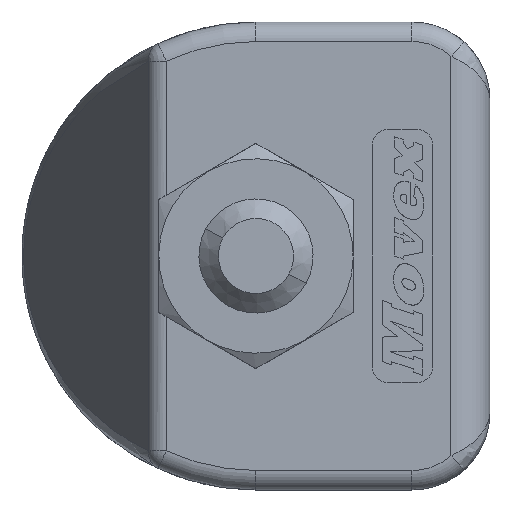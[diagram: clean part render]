
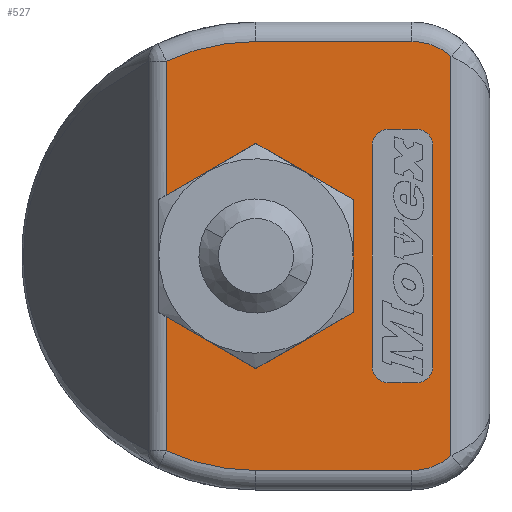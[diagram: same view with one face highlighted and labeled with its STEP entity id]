
A CAD part, left-side view. The second image highlights one B-rep face of the part: STEP entity #527.
In plain terms, the highlighted planar face has unit normal (-1, 0, 0) as drawn and (1, 0, 0) by its records, which use the part's own axes.
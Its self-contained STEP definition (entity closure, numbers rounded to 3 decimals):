
#291=CARTESIAN_POINT('Line Origine',(22.5,16.601,0.)) ;
#295=CARTESIAN_POINT('Vertex',(22.5,16.601,-9.991)) ;
#297=CARTESIAN_POINT('Vertex',(22.5,16.601,-3.117)) ;
#318=CARTESIAN_POINT('Vertex',(22.5,16.601,9.991)) ;
#321=CARTESIAN_POINT('Line Origine',(22.5,16.601,0.)) ;
#325=CARTESIAN_POINT('Vertex',(22.5,16.601,3.117)) ;
#360=CARTESIAN_POINT('Axis2P3D Location',(22.5,2.,0.)) ;
#365=CARTESIAN_POINT('Axis2P3D Location',(22.5,12.,0.)) ;
#369=CARTESIAN_POINT('Vertex',(22.5,12.,11.)) ;
#372=CARTESIAN_POINT('Line Origine',(22.5,8.,11.)) ;
#376=CARTESIAN_POINT('Vertex',(22.5,4.,11.)) ;
#379=CARTESIAN_POINT('Axis2P3D Location',(22.5,4.,8.)) ;
#383=CARTESIAN_POINT('Vertex',(22.5,2.,10.236)) ;
#386=CARTESIAN_POINT('Line Origine',(22.5,2.,0.)) ;
#390=CARTESIAN_POINT('Vertex',(22.5,2.,-10.236)) ;
#393=CARTESIAN_POINT('Axis2P3D Location',(22.5,4.,-8.)) ;
#397=CARTESIAN_POINT('Vertex',(22.5,4.,-11.)) ;
#400=CARTESIAN_POINT('Line Origine',(22.5,8.,-11.)) ;
#404=CARTESIAN_POINT('Vertex',(22.5,12.,-11.)) ;
#407=CARTESIAN_POINT('Axis2P3D Location',(22.5,12.,0.)) ;
#412=CARTESIAN_POINT('Line Origine',(22.5,14.301,-4.445)) ;
#416=CARTESIAN_POINT('Vertex',(22.5,12.,-5.774)) ;
#419=CARTESIAN_POINT('Line Origine',(22.5,9.5,-4.33)) ;
#423=CARTESIAN_POINT('Vertex',(22.5,7.,-2.887)) ;
#426=CARTESIAN_POINT('Line Origine',(22.5,7.,0.)) ;
#430=CARTESIAN_POINT('Vertex',(22.5,7.,2.887)) ;
#433=CARTESIAN_POINT('Line Origine',(22.5,9.5,4.33)) ;
#437=CARTESIAN_POINT('Vertex',(22.5,12.,5.774)) ;
#440=CARTESIAN_POINT('Line Origine',(22.5,14.301,4.445)) ;
#461=CARTESIAN_POINT('Axis2P3D Location',(22.5,5.192,-5.663)) ;
#465=CARTESIAN_POINT('Vertex',(22.5,5.192,-6.512)) ;
#467=CARTESIAN_POINT('Vertex',(22.5,6.041,-5.663)) ;
#470=CARTESIAN_POINT('Line Origine',(22.5,4.484,-6.512)) ;
#474=CARTESIAN_POINT('Vertex',(22.5,3.776,-6.512)) ;
#477=CARTESIAN_POINT('Axis2P3D Location',(22.5,3.776,-5.663)) ;
#481=CARTESIAN_POINT('Vertex',(22.5,2.927,-5.663)) ;
#484=CARTESIAN_POINT('Line Origine',(22.5,2.927,0.)) ;
#488=CARTESIAN_POINT('Vertex',(22.5,2.927,5.663)) ;
#491=CARTESIAN_POINT('Axis2P3D Location',(22.5,3.776,5.663)) ;
#495=CARTESIAN_POINT('Vertex',(22.5,3.776,6.512)) ;
#498=CARTESIAN_POINT('Line Origine',(22.5,4.484,6.512)) ;
#502=CARTESIAN_POINT('Vertex',(22.5,5.192,6.512)) ;
#505=CARTESIAN_POINT('Axis2P3D Location',(22.5,5.192,5.663)) ;
#509=CARTESIAN_POINT('Vertex',(22.5,6.041,5.663)) ;
#512=CARTESIAN_POINT('Line Origine',(22.5,6.041,0.)) ;
#292=DIRECTION('Vector Direction',(0.,0.,1.)) ;
#322=DIRECTION('Vector Direction',(0.,0.,1.)) ;
#361=DIRECTION('Axis2P3D Direction',(1.,0.,0.)) ;
#362=DIRECTION('Axis2P3D XDirection',(0.,1.,0.)) ;
#366=DIRECTION('Axis2P3D Direction',(1.,0.,0.)) ;
#373=DIRECTION('Vector Direction',(0.,1.,0.)) ;
#380=DIRECTION('Axis2P3D Direction',(1.,0.,0.)) ;
#387=DIRECTION('Vector Direction',(0.,0.,1.)) ;
#394=DIRECTION('Axis2P3D Direction',(1.,0.,0.)) ;
#401=DIRECTION('Vector Direction',(0.,1.,0.)) ;
#408=DIRECTION('Axis2P3D Direction',(1.,0.,0.)) ;
#413=DIRECTION('Vector Direction',(0.,0.866,0.5)) ;
#420=DIRECTION('Vector Direction',(0.,0.866,-0.5)) ;
#427=DIRECTION('Vector Direction',(0.,0.,-1.)) ;
#434=DIRECTION('Vector Direction',(0.,-0.866,-0.5)) ;
#441=DIRECTION('Vector Direction',(0.,-0.866,0.5)) ;
#462=DIRECTION('Axis2P3D Direction',(1.,0.,0.)) ;
#471=DIRECTION('Vector Direction',(0.,-1.,0.)) ;
#478=DIRECTION('Axis2P3D Direction',(1.,0.,0.)) ;
#485=DIRECTION('Vector Direction',(0.,0.,1.)) ;
#492=DIRECTION('Axis2P3D Direction',(1.,0.,0.)) ;
#499=DIRECTION('Vector Direction',(0.,1.,0.)) ;
#506=DIRECTION('Axis2P3D Direction',(1.,0.,0.)) ;
#513=DIRECTION('Vector Direction',(0.,0.,-1.)) ;
#363=AXIS2_PLACEMENT_3D('Plane Axis2P3D',#360,#361,#362) ;
#367=AXIS2_PLACEMENT_3D('Circle Axis2P3D',#365,#366,$) ;
#381=AXIS2_PLACEMENT_3D('Circle Axis2P3D',#379,#380,$) ;
#395=AXIS2_PLACEMENT_3D('Circle Axis2P3D',#393,#394,$) ;
#409=AXIS2_PLACEMENT_3D('Circle Axis2P3D',#407,#408,$) ;
#463=AXIS2_PLACEMENT_3D('Circle Axis2P3D',#461,#462,$) ;
#479=AXIS2_PLACEMENT_3D('Circle Axis2P3D',#477,#478,$) ;
#493=AXIS2_PLACEMENT_3D('Circle Axis2P3D',#491,#492,$) ;
#507=AXIS2_PLACEMENT_3D('Circle Axis2P3D',#505,#506,$) ;
#446=ORIENTED_EDGE('',*,*,#371,.F.) ;
#447=ORIENTED_EDGE('',*,*,#378,.F.) ;
#448=ORIENTED_EDGE('',*,*,#385,.F.) ;
#449=ORIENTED_EDGE('',*,*,#392,.F.) ;
#450=ORIENTED_EDGE('',*,*,#399,.T.) ;
#451=ORIENTED_EDGE('',*,*,#406,.T.) ;
#452=ORIENTED_EDGE('',*,*,#411,.T.) ;
#453=ORIENTED_EDGE('',*,*,#299,.T.) ;
#454=ORIENTED_EDGE('',*,*,#418,.F.) ;
#455=ORIENTED_EDGE('',*,*,#425,.F.) ;
#456=ORIENTED_EDGE('',*,*,#432,.F.) ;
#457=ORIENTED_EDGE('',*,*,#439,.F.) ;
#458=ORIENTED_EDGE('',*,*,#444,.F.) ;
#459=ORIENTED_EDGE('',*,*,#327,.T.) ;
#518=ORIENTED_EDGE('',*,*,#469,.F.) ;
#519=ORIENTED_EDGE('',*,*,#476,.F.) ;
#520=ORIENTED_EDGE('',*,*,#483,.F.) ;
#521=ORIENTED_EDGE('',*,*,#490,.F.) ;
#522=ORIENTED_EDGE('',*,*,#497,.F.) ;
#523=ORIENTED_EDGE('',*,*,#504,.F.) ;
#524=ORIENTED_EDGE('',*,*,#511,.F.) ;
#525=ORIENTED_EDGE('',*,*,#516,.F.) ;
#526=FACE_BOUND('',#517,.T.) ;
#293=VECTOR('Line Direction',#292,1.) ;
#323=VECTOR('Line Direction',#322,1.) ;
#374=VECTOR('Line Direction',#373,1.) ;
#388=VECTOR('Line Direction',#387,1.) ;
#402=VECTOR('Line Direction',#401,1.) ;
#414=VECTOR('Line Direction',#413,1.) ;
#421=VECTOR('Line Direction',#420,1.) ;
#428=VECTOR('Line Direction',#427,1.) ;
#435=VECTOR('Line Direction',#434,1.) ;
#442=VECTOR('Line Direction',#441,1.) ;
#472=VECTOR('Line Direction',#471,1.) ;
#486=VECTOR('Line Direction',#485,1.) ;
#500=VECTOR('Line Direction',#499,1.) ;
#514=VECTOR('Line Direction',#513,1.) ;
#527=ADVANCED_FACE('PartBody',(#460,#526),#364,.T.) ;
#368=CIRCLE('generated circle',#367,11.) ;
#382=CIRCLE('generated circle',#381,3.) ;
#396=CIRCLE('generated circle',#395,3.) ;
#410=CIRCLE('generated circle',#409,11.) ;
#464=CIRCLE('generated circle',#463,0.849) ;
#480=CIRCLE('generated circle',#479,0.849) ;
#494=CIRCLE('generated circle',#493,0.849) ;
#508=CIRCLE('generated circle',#507,0.849) ;
#299=EDGE_CURVE('',#296,#298,#294,.T.) ;
#327=EDGE_CURVE('',#326,#319,#324,.T.) ;
#371=EDGE_CURVE('',#370,#319,#368,.F.) ;
#378=EDGE_CURVE('',#377,#370,#375,.T.) ;
#385=EDGE_CURVE('',#384,#377,#382,.F.) ;
#392=EDGE_CURVE('',#391,#384,#389,.T.) ;
#399=EDGE_CURVE('',#391,#398,#396,.T.) ;
#406=EDGE_CURVE('',#398,#405,#403,.T.) ;
#411=EDGE_CURVE('',#405,#296,#410,.T.) ;
#418=EDGE_CURVE('',#417,#298,#415,.T.) ;
#425=EDGE_CURVE('',#424,#417,#422,.T.) ;
#432=EDGE_CURVE('',#431,#424,#429,.T.) ;
#439=EDGE_CURVE('',#438,#431,#436,.T.) ;
#444=EDGE_CURVE('',#326,#438,#443,.T.) ;
#469=EDGE_CURVE('',#466,#468,#464,.T.) ;
#476=EDGE_CURVE('',#475,#466,#473,.F.) ;
#483=EDGE_CURVE('',#482,#475,#480,.T.) ;
#490=EDGE_CURVE('',#489,#482,#487,.F.) ;
#497=EDGE_CURVE('',#496,#489,#494,.T.) ;
#504=EDGE_CURVE('',#503,#496,#501,.F.) ;
#511=EDGE_CURVE('',#510,#503,#508,.T.) ;
#516=EDGE_CURVE('',#468,#510,#515,.F.) ;
#445=EDGE_LOOP('',(#446,#447,#448,#449,#450,#451,#452,#453,#454,#455,#456,#457,#458,#459)) ;
#517=EDGE_LOOP('',(#518,#519,#520,#521,#522,#523,#524,#525)) ;
#460=FACE_OUTER_BOUND('',#445,.T.) ;
#294=LINE('Line',#291,#293) ;
#324=LINE('Line',#321,#323) ;
#375=LINE('Line',#372,#374) ;
#389=LINE('Line',#386,#388) ;
#403=LINE('Line',#400,#402) ;
#415=LINE('Line',#412,#414) ;
#422=LINE('Line',#419,#421) ;
#429=LINE('Line',#426,#428) ;
#436=LINE('Line',#433,#435) ;
#443=LINE('Line',#440,#442) ;
#473=LINE('Line',#470,#472) ;
#487=LINE('Line',#484,#486) ;
#501=LINE('Line',#498,#500) ;
#515=LINE('Line',#512,#514) ;
#364=PLANE('',#363) ;
#296=VERTEX_POINT('',#295) ;
#298=VERTEX_POINT('',#297) ;
#319=VERTEX_POINT('',#318) ;
#326=VERTEX_POINT('',#325) ;
#370=VERTEX_POINT('',#369) ;
#377=VERTEX_POINT('',#376) ;
#384=VERTEX_POINT('',#383) ;
#391=VERTEX_POINT('',#390) ;
#398=VERTEX_POINT('',#397) ;
#405=VERTEX_POINT('',#404) ;
#417=VERTEX_POINT('',#416) ;
#424=VERTEX_POINT('',#423) ;
#431=VERTEX_POINT('',#430) ;
#438=VERTEX_POINT('',#437) ;
#466=VERTEX_POINT('',#465) ;
#468=VERTEX_POINT('',#467) ;
#475=VERTEX_POINT('',#474) ;
#482=VERTEX_POINT('',#481) ;
#489=VERTEX_POINT('',#488) ;
#496=VERTEX_POINT('',#495) ;
#503=VERTEX_POINT('',#502) ;
#510=VERTEX_POINT('',#509) ;
